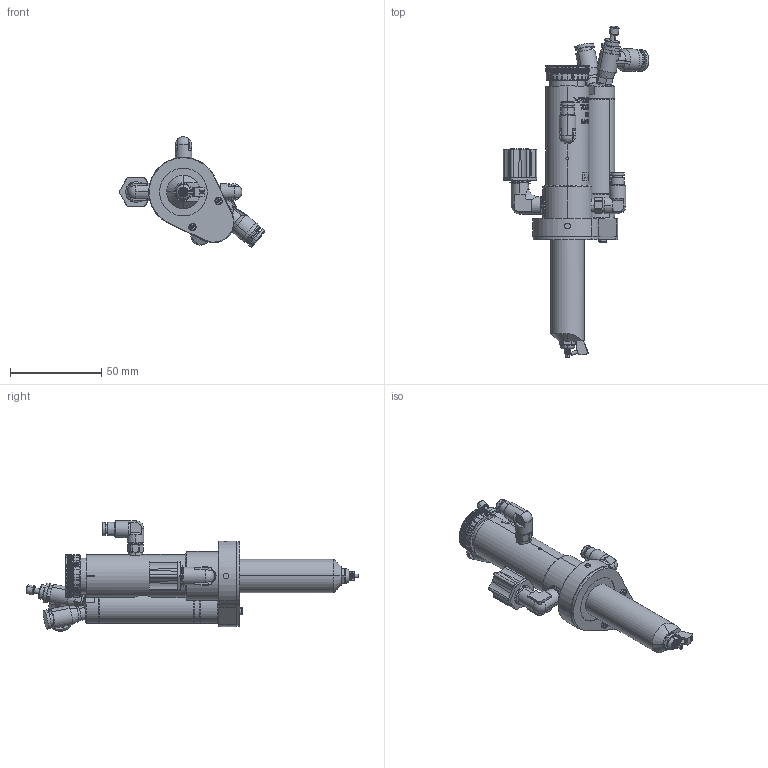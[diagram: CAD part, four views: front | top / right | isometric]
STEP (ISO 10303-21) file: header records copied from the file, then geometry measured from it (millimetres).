
FILE_DESCRIPTION (( 'STEP AP214' ), '1' );
FILE_NAME ('NORDSONEFD-7021649 RADIAL SPRAY VALVE.STEP', '2019-05-23T07:45:37', ( '' ), ( '' ), 'SwSTEP 2.0', 'SolidWorks 2019', '' );
FILE_SCHEMA (( 'AUTOMOTIVE_DESIGN' ));
Products named in the file (1): NORDSONEFD-7021649  RADIAL SPRAY VALVE
Bounding box: 80.04 x 182.35 x 60.58 mm (x, y, z)
Volume: 102122 mm3; surface area: 32971 mm2
Topology: 1 solids, 27 shells, 2636 faces, 7150 edges, 4669 vertices
Faces by surface type: plane 985, cylinder 846, bspline 421, cone 284, torus 94, sphere 6
Entity records: 128969 total; most frequent: CARTESIAN_POINT 68032, ORIENTED_EDGE 14276, DIRECTION 10801, EDGE_CURVE 7138, VERTEX_POINT 4669, AXIS2_PLACEMENT_3D 4101, EDGE_LOOP 2805, ADVANCED_FACE 2636
